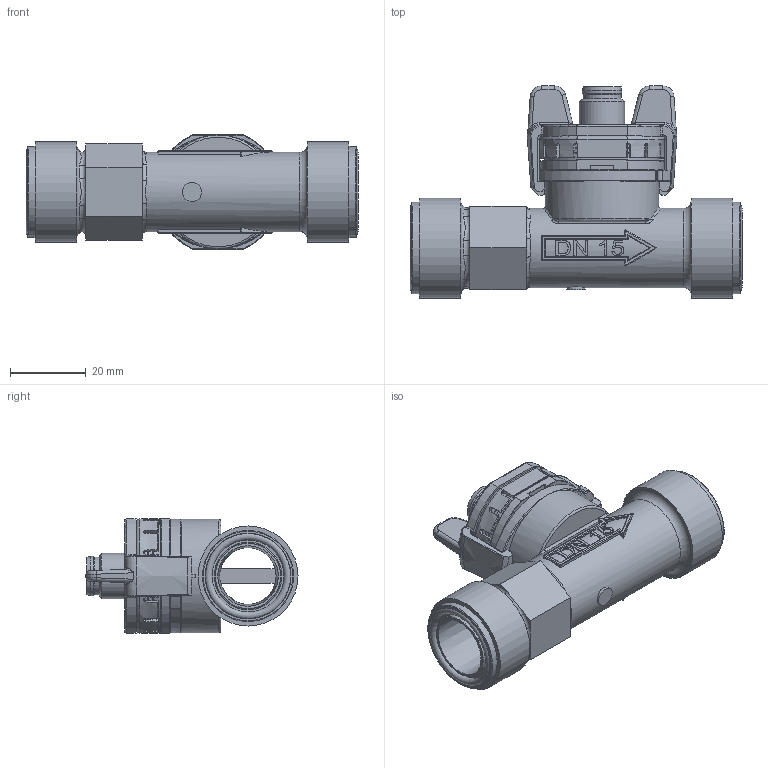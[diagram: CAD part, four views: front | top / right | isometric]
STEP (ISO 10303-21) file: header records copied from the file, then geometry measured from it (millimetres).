
FILE_DESCRIPTION(/* description */ (''),/* implementation_level */ '2;1');
FILE_NAME(/* name */ '2x0_x15x5xK.stp',/* time_stamp */ '2014-10-29T17:15:06+01:00',/* author */ (''),/* organization */ (''),/* preprocessor_version */ 'ST-DEVELOPER v15',/* originating_system */ 'SIEMENS PLM Software NX 9.0',/* authorisation */ '');
FILE_SCHEMA (('AUTOMOTIVE_DESIGN { 1 0 10303 214 3 1 1 1 }'));
Length unit declared in the file: millimetre
Products named in the file (1): Vi0D304EFF7rpk
Bounding box: 87.78 x 56.07 x 30.2 mm (x, y, z)
Volume: 44062.1 mm3; surface area: 28211.7 mm2
Topology: 8 solids, 8 shells, 1284 faces, 3357 edges, 2108 vertices
Faces by surface type: plane 513, cylinder 332, extrusion 108, cone 106, torus 102, bspline 100, sphere 22, revolution 1
Full cylindrical faces by diameter (mm): 0.8 x3, 1 x11, 2 x2, 5 x1, 5.76 x2, 7.98 x4, 8.15 x2, 8.98 x1, 9.25 x1, 10 x1, 10.4 x1, 12 x1, 15 x1, 15.17 x1, 15.4 x1, 17.4 x2, 21 x1, 22.5 x2, 24.1 x2, 26.441 x2, 30 x1
Entity records: 54179 total; most frequent: CARTESIAN_POINT 16418, ORIENTED_EDGE 6334, DIRECTION 5880, EDGE_CURVE 3167, AXIS2_PLACEMENT_3D 2171, VERTEX_POINT 2057, VECTOR 1537, EDGE_LOOP 1476
